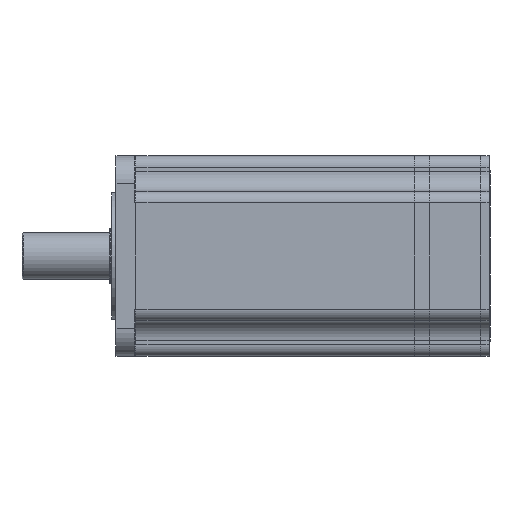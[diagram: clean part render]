
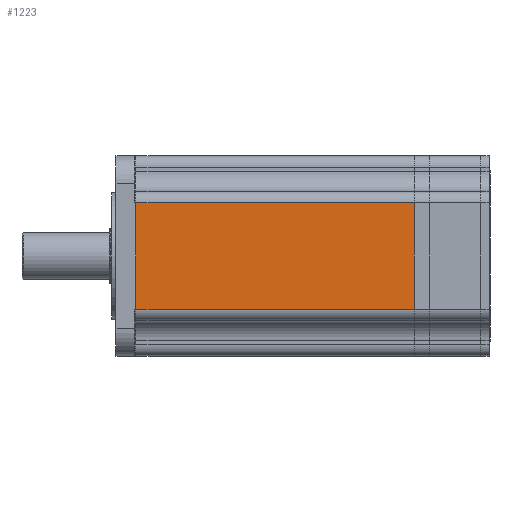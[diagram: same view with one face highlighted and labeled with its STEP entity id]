
A CAD part, front view. The second image highlights one B-rep face of the part: STEP entity #1223.
In plain terms, the highlighted planar face has unit normal (0, -1, 0).
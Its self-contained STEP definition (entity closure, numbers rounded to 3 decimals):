
#1223 = ADVANCED_FACE ( 'NONE', ( #11492 ), #41230, .F. ) ;
#1778 = ORIENTED_EDGE ( 'NONE', *, *, #7808, .T. ) ;
#2873 = DIRECTION ( 'NONE',  ( -1., 0., 0. ) ) ;
#4491 = DIRECTION ( 'NONE',  ( 0., 0., -1. ) ) ;
#4500 = VERTEX_POINT ( 'NONE', #29606 ) ;
#5136 = CARTESIAN_POINT ( 'NONE',  ( 0., -90., -48. ) ) ;
#5313 = VECTOR ( 'NONE', #36392, 1000. ) ;
#7808 = EDGE_CURVE ( 'NONE', #36444, #21913, #20276, .T. ) ;
#9930 = EDGE_CURVE ( 'NONE', #21913, #39066, #24393, .T. ) ;
#10289 = AXIS2_PLACEMENT_3D ( 'NONE', #54797, #54612, #14543 ) ;
#11492 = FACE_OUTER_BOUND ( 'NONE', #24927, .T. ) ;
#14543 = DIRECTION ( 'NONE',  ( 0., 0., 1. ) ) ;
#14897 = ORIENTED_EDGE ( 'NONE', *, *, #9930, .T. ) ;
#20276 = LINE ( 'NONE', #30798, #54442 ) ;
#21913 = VERTEX_POINT ( 'NONE', #43430 ) ;
#22549 = CARTESIAN_POINT ( 'NONE',  ( 0., -90., -48. ) ) ;
#24393 = LINE ( 'NONE', #22549, #54349 ) ;
#24927 = EDGE_LOOP ( 'NONE', ( #14897, #31759, #41117, #1778 ) ) ;
#25292 = EDGE_CURVE ( 'NONE', #36444, #4500, #34593, .T. ) ;
#29606 = CARTESIAN_POINT ( 'NONE',  ( 250., -90., -48. ) ) ;
#30105 = CARTESIAN_POINT ( 'NONE',  ( 250., -90., -48. ) ) ;
#30798 = CARTESIAN_POINT ( 'NONE',  ( 250., -90., 48. ) ) ;
#31759 = ORIENTED_EDGE ( 'NONE', *, *, #35860, .F. ) ;
#33373 = CARTESIAN_POINT ( 'NONE',  ( 250., -90., 48. ) ) ;
#34593 = LINE ( 'NONE', #44164, #5313 ) ;
#35658 = DIRECTION ( 'NONE',  ( -1., 0., 0. ) ) ;
#35860 = EDGE_CURVE ( 'NONE', #4500, #39066, #55446, .T. ) ;
#36392 = DIRECTION ( 'NONE',  ( 0., 0., -1. ) ) ;
#36444 = VERTEX_POINT ( 'NONE', #33373 ) ;
#39066 = VERTEX_POINT ( 'NONE', #5136 ) ;
#41117 = ORIENTED_EDGE ( 'NONE', *, *, #25292, .F. ) ;
#41230 = PLANE ( 'NONE',  #10289 ) ;
#43430 = CARTESIAN_POINT ( 'NONE',  ( 0., -90., 48. ) ) ;
#44164 = CARTESIAN_POINT ( 'NONE',  ( 250., -90., -48. ) ) ;
#47059 = VECTOR ( 'NONE', #2873, 1000. ) ;
#54349 = VECTOR ( 'NONE', #4491, 1000. ) ;
#54442 = VECTOR ( 'NONE', #35658, 1000. ) ;
#54612 = DIRECTION ( 'NONE',  ( 0., 1., 0. ) ) ;
#54797 = CARTESIAN_POINT ( 'NONE',  ( 250., -90., -48. ) ) ;
#55446 = LINE ( 'NONE', #30105, #47059 ) ;
